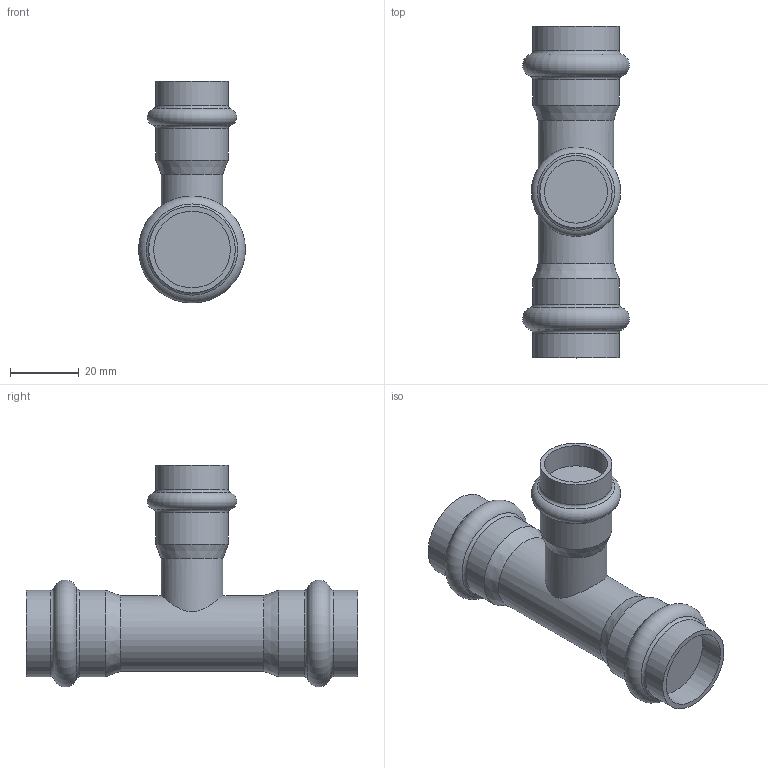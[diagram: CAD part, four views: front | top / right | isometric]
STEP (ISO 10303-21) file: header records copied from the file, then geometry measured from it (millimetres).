
FILE_DESCRIPTION(('STEP AP203'), '1');
FILE_NAME('VTi.931.I.221822', '', ('UNSPECIFIED'), ('UNSPECIFIED'), 'C3D Converter', 'C3D Toolkit', '');
FILE_SCHEMA(('CONFIG_CONTROL_DESIGN'));
Length unit declared in the file: millimetre
Bounding box: 31.09 x 96.5 x 64.55 mm (x, y, z)
Volume: 50766.9 mm3; surface area: 13091.4 mm2
Topology: 1 solids, 1 shells, 29 faces, 53 edges, 29 vertices
Faces by surface type: cylinder 11, torus 9, plane 6, cone 3
Full cylindrical faces by diameter (mm): 18 x1, 18.3 x1, 21 x2, 22 x1, 22.3 x2, 25.2 x4
Entity records: 874 total; most frequent: CARTESIAN_POINT 344, DIRECTION 114, ORIENTED_EDGE 58, AXIS2_PLACEMENT_3D 57, EDGE_LOOP 56, FACE_OUTER_BOUND 45, ADVANCED_FACE 29, EDGE_CURVE 29
